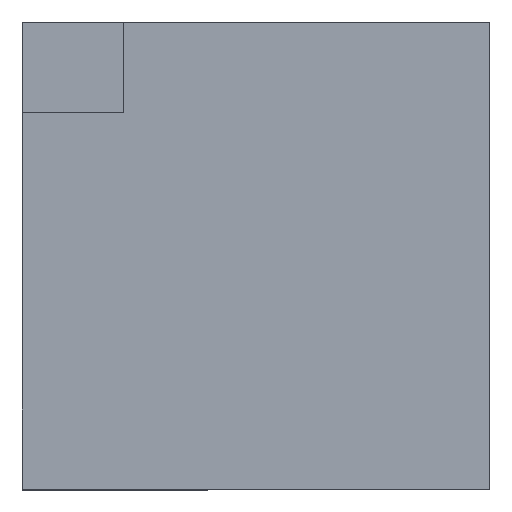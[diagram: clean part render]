
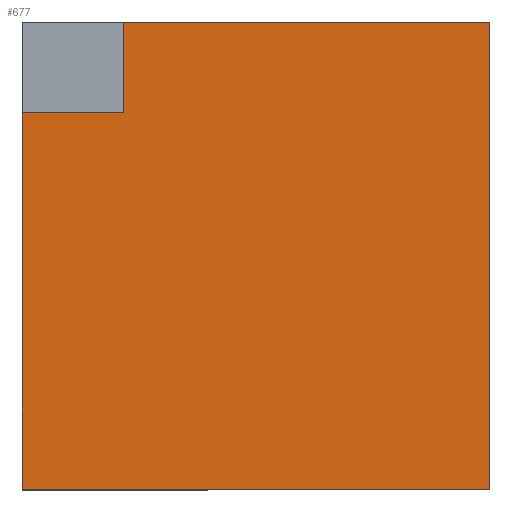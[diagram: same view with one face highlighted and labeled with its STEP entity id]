
A CAD part, top view. The second image highlights one B-rep face of the part: STEP entity #677.
In plain terms, the highlighted planar face has unit normal (0, 0, 1).
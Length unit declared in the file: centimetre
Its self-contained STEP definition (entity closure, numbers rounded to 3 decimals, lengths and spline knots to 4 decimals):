
#2 = VERTEX_POINT ( 'NONE', #731 ) ;
#6 = DIRECTION ( 'NONE',  ( 0., 0., 1. ) ) ;
#31 = LINE ( 'NONE', #1271, #642 ) ;
#34 = ORIENTED_EDGE ( 'NONE', *, *, #1019, .T. ) ;
#42 = LINE ( 'NONE', #903, #1345 ) ;
#48 = ORIENTED_EDGE ( 'NONE', *, *, #472, .T. ) ;
#108 = LINE ( 'NONE', #834, #266 ) ;
#121 = DIRECTION ( 'NONE',  ( 0., 1., 0. ) ) ;
#140 = EDGE_LOOP ( 'NONE', ( #909, #369, #1472, #1505, #48, #34 ) ) ;
#147 = EDGE_CURVE ( 'NONE', #1126, #824, #1319, .T. ) ;
#266 = VECTOR ( 'NONE', #1574, 100. ) ;
#356 = VECTOR ( 'NONE', #446, 100. ) ;
#366 = FACE_OUTER_BOUND ( 'NONE', #140, .T. ) ;
#369 = ORIENTED_EDGE ( 'NONE', *, *, #837, .F. ) ;
#394 = VECTOR ( 'NONE', #487, 100. ) ;
#446 = DIRECTION ( 'NONE',  ( 0., 1., 0. ) ) ;
#472 = EDGE_CURVE ( 'NONE', #1576, #2, #567, .T. ) ;
#487 = DIRECTION ( 'NONE',  ( 0., -1., 0. ) ) ;
#506 = EDGE_CURVE ( 'NONE', #824, #1576, #42, .T. ) ;
#512 = CARTESIAN_POINT ( 'NONE',  ( 0., 806.6786, 1000. ) ) ;
#566 = AXIS2_PLACEMENT_3D ( 'NONE', #869, #6, #1350 ) ;
#567 = LINE ( 'NONE', #1024, #356 ) ;
#642 = VECTOR ( 'NONE', #1124, 100. ) ;
#650 = CARTESIAN_POINT ( 'NONE',  ( 1000., 0., 1000. ) ) ;
#677 = ADVANCED_FACE ( 'NONE', ( #366 ), #738, .T. ) ;
#731 = CARTESIAN_POINT ( 'NONE',  ( 1000., 1000., 1000. ) ) ;
#738 = PLANE ( 'NONE',  #566 ) ;
#791 = DIRECTION ( 'NONE',  ( 1., 0., 0. ) ) ;
#824 = VERTEX_POINT ( 'NONE', #1201 ) ;
#825 = EDGE_CURVE ( 'NONE', #1368, #860, #861, .T. ) ;
#834 = CARTESIAN_POINT ( 'NONE',  ( 0., 1000., 1000. ) ) ;
#837 = EDGE_CURVE ( 'NONE', #1126, #1368, #31, .T. ) ;
#860 = VERTEX_POINT ( 'NONE', #1387 ) ;
#861 = LINE ( 'NONE', #1334, #898 ) ;
#869 = CARTESIAN_POINT ( 'NONE',  ( 0., 0., 1000. ) ) ;
#898 = VECTOR ( 'NONE', #121, 100. ) ;
#903 = CARTESIAN_POINT ( 'NONE',  ( 0., 0., 1000. ) ) ;
#909 = ORIENTED_EDGE ( 'NONE', *, *, #825, .F. ) ;
#1019 = EDGE_CURVE ( 'NONE', #2, #860, #108, .T. ) ;
#1024 = CARTESIAN_POINT ( 'NONE',  ( 1000., 1000., 1000. ) ) ;
#1076 = CARTESIAN_POINT ( 'NONE',  ( 0., 1000., 1000. ) ) ;
#1124 = DIRECTION ( 'NONE',  ( 1., 0., 0. ) ) ;
#1126 = VERTEX_POINT ( 'NONE', #512 ) ;
#1201 = CARTESIAN_POINT ( 'NONE',  ( 0., 0., 1000. ) ) ;
#1271 = CARTESIAN_POINT ( 'NONE',  ( 0., 806.6786, 1000. ) ) ;
#1319 = LINE ( 'NONE', #1076, #394 ) ;
#1334 = CARTESIAN_POINT ( 'NONE',  ( 216.5746, 806.6786, 1000. ) ) ;
#1345 = VECTOR ( 'NONE', #791, 100. ) ;
#1350 = DIRECTION ( 'NONE',  ( 1., 0., 0. ) ) ;
#1368 = VERTEX_POINT ( 'NONE', #1500 ) ;
#1387 = CARTESIAN_POINT ( 'NONE',  ( 216.5746, 1000., 1000. ) ) ;
#1472 = ORIENTED_EDGE ( 'NONE', *, *, #147, .T. ) ;
#1500 = CARTESIAN_POINT ( 'NONE',  ( 216.5746, 806.6786, 1000. ) ) ;
#1505 = ORIENTED_EDGE ( 'NONE', *, *, #506, .T. ) ;
#1574 = DIRECTION ( 'NONE',  ( -1., 0., 0. ) ) ;
#1576 = VERTEX_POINT ( 'NONE', #650 ) ;
